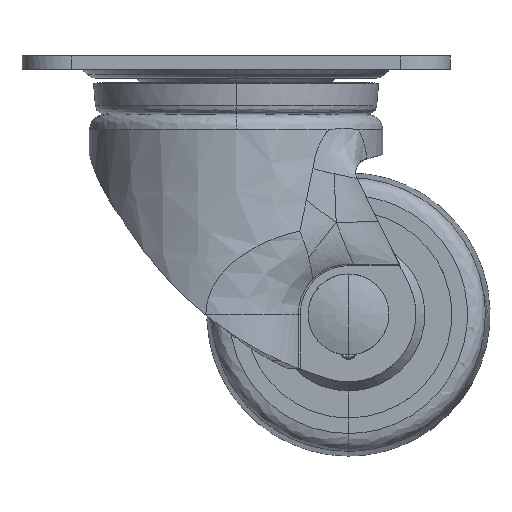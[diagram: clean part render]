
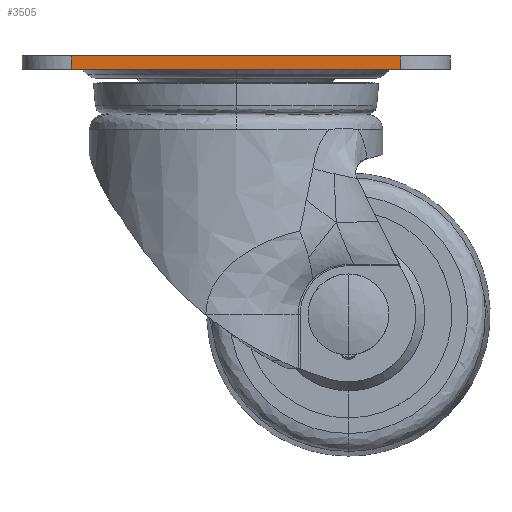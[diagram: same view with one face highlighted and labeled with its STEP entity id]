
A CAD part, front view. The second image highlights one B-rep face of the part: STEP entity #3505.
In plain terms, the highlighted planar face has unit normal (0, -1, 0).
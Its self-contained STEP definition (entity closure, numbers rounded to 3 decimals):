
#3505 = ADVANCED_FACE ( 'NONE', ( #44653 ), #58034, .T. ) ;
#19079 = CARTESIAN_POINT ( 'NONE',  ( 36.6, -34.9, -3. ) ) ;
#19082 = DIRECTION ( 'NONE',  ( 1., 0., 0. ) ) ;
#22407 = CARTESIAN_POINT ( 'NONE',  ( 36.6, -34.9, -1.5 ) ) ;
#22421 = DIRECTION ( 'NONE',  ( 0., 0., 1. ) ) ;
#22590 = CARTESIAN_POINT ( 'NONE',  ( -36.6, -34.9, -1.5 ) ) ;
#22672 = DIRECTION ( 'NONE',  ( 0., 0., -1. ) ) ;
#23354 = CARTESIAN_POINT ( 'NONE',  ( -47.6, -34.9, 0. ) ) ;
#23355 = DIRECTION ( 'NONE',  ( 1., 0., 0. ) ) ;
#25514 = EDGE_CURVE ( 'NONE', #45043, #45050, #37587, .T. ) ;
#25532 = EDGE_CURVE ( 'NONE', #45049, #45044, #37600, .T. ) ;
#25582 = EDGE_CURVE ( 'NONE', #45049, #45050, #42619, .T. ) ;
#25708 = EDGE_CURVE ( 'NONE', #45044, #45043, #42686, .T. ) ;
#33976 = AXIS2_PLACEMENT_3D ( 'NONE', #58003, #58036, #58037 ) ;
#37587 = LINE ( 'NONE', #22407, #37591 ) ;
#37591 = VECTOR ( 'NONE', #22421, 1000. ) ;
#37597 = VECTOR ( 'NONE', #22672, 1000. ) ;
#37600 = LINE ( 'NONE', #22590, #37597 ) ;
#39795 = ORIENTED_EDGE ( 'NONE', *, *, #25708, .T. ) ;
#39797 = ORIENTED_EDGE ( 'NONE', *, *, #25514, .T. ) ;
#42614 = VECTOR ( 'NONE', #23355, 1000. ) ;
#42619 = LINE ( 'NONE', #23354, #42614 ) ;
#42678 = VECTOR ( 'NONE', #19082, 1000. ) ;
#42686 = LINE ( 'NONE', #19079, #42678 ) ;
#44653 = FACE_OUTER_BOUND ( 'NONE', #55086, .T. ) ;
#45043 = VERTEX_POINT ( 'NONE', #48164 ) ;
#45044 = VERTEX_POINT ( 'NONE', #48165 ) ;
#45049 = VERTEX_POINT ( 'NONE', #48169 ) ;
#45050 = VERTEX_POINT ( 'NONE', #48170 ) ;
#46969 = ORIENTED_EDGE ( 'NONE', *, *, #25532, .T. ) ;
#46971 = ORIENTED_EDGE ( 'NONE', *, *, #25582, .F. ) ;
#48164 = CARTESIAN_POINT ( 'NONE',  ( 36.6, -34.9, -3. ) ) ;
#48165 = CARTESIAN_POINT ( 'NONE',  ( -36.6, -34.9, -3. ) ) ;
#48169 = CARTESIAN_POINT ( 'NONE',  ( -36.6, -34.9, 0. ) ) ;
#48170 = CARTESIAN_POINT ( 'NONE',  ( 36.6, -34.9, 0. ) ) ;
#55086 = EDGE_LOOP ( 'NONE', ( #46971, #46969, #39795, #39797 ) ) ;
#58003 = CARTESIAN_POINT ( 'NONE',  ( 36.6, -34.9, 0. ) ) ;
#58034 = PLANE ( 'NONE',  #33976 ) ;
#58036 = DIRECTION ( 'NONE',  ( 0., -1., 0. ) ) ;
#58037 = DIRECTION ( 'NONE',  ( -1., 0., 0. ) ) ;
